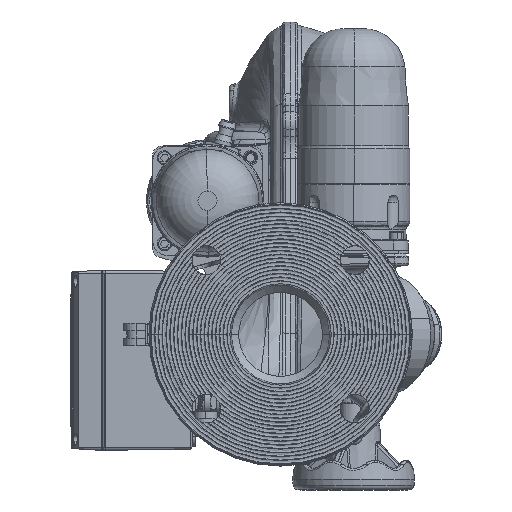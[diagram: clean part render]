
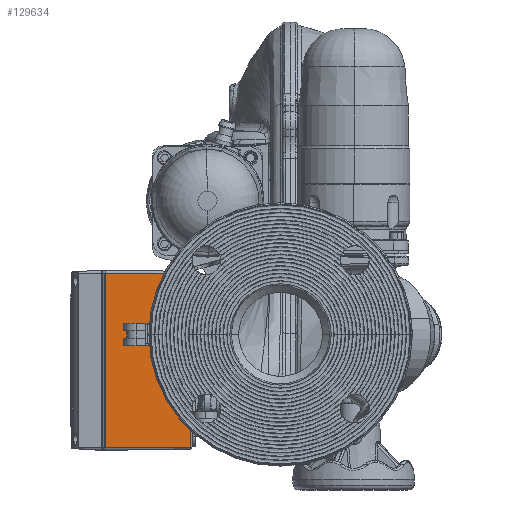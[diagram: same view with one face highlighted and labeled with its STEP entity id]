
A CAD part, front view. The second image highlights one B-rep face of the part: STEP entity #129634.
In plain terms, the highlighted planar face has unit normal (0.014, -1, 0).
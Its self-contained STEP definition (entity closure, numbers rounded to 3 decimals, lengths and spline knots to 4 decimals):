
#7338 = FACE_OUTER_BOUND ( 'NONE', #175853, .T. ) ;
#11361 = AXIS2_PLACEMENT_3D ( 'NONE', #147876, #48940, #62938 ) ;
#11883 = LINE ( 'NONE', #87719, #60179 ) ;
#14255 = EDGE_CURVE ( 'NONE', #159757, #171988, #109664, .T. ) ;
#21362 = CARTESIAN_POINT ( 'NONE',  ( -4.8476, -0.9483, -2.9568 ) ) ;
#27795 = VERTEX_POINT ( 'NONE', #123899 ) ;
#29565 = DIRECTION ( 'NONE',  ( 0., 0., 1. ) ) ;
#30162 = CARTESIAN_POINT ( 'NONE',  ( -2.6018, -0.917, 1.6032 ) ) ;
#39700 = VECTOR ( 'NONE', #162542, 39.3701 ) ;
#44484 = CARTESIAN_POINT ( 'NONE',  ( -4.9186, -0.9493, 1.6032 ) ) ;
#47830 = EDGE_CURVE ( 'NONE', #177715, #27795, #179917, .T. ) ;
#48940 = DIRECTION ( 'NONE',  ( 0.014, -1., 0. ) ) ;
#51559 = LINE ( 'NONE', #44484, #139075 ) ;
#58033 = ORIENTED_EDGE ( 'NONE', *, *, #14255, .T. ) ;
#60179 = VECTOR ( 'NONE', #116411, 39.3701 ) ;
#62938 = DIRECTION ( 'NONE',  ( 1., 0.014, 0. ) ) ;
#63439 = CARTESIAN_POINT ( 'NONE',  ( -4.8476, -0.9483, 1.6032 ) ) ;
#70723 = DIRECTION ( 'NONE',  ( -1., -0.014, 0. ) ) ;
#87719 = CARTESIAN_POINT ( 'NONE',  ( -4.9186, -0.9493, -2.9568 ) ) ;
#103317 = PLANE ( 'NONE',  #11361 ) ;
#104590 = EDGE_CURVE ( 'NONE', #27795, #159757, #51559, .T. ) ;
#109664 = LINE ( 'NONE', #21362, #39700 ) ;
#116411 = DIRECTION ( 'NONE',  ( -1., -0.014, 0. ) ) ;
#123899 = CARTESIAN_POINT ( 'NONE',  ( -2.6018, -0.917, 1.6032 ) ) ;
#129441 = ORIENTED_EDGE ( 'NONE', *, *, #104590, .T. ) ;
#129634 = ADVANCED_FACE ( 'NONE', ( #7338 ), #103317, .T. ) ;
#131792 = VECTOR ( 'NONE', #29565, 39.3701 ) ;
#136446 = CARTESIAN_POINT ( 'NONE',  ( -2.6018, -0.917, -2.9568 ) ) ;
#139075 = VECTOR ( 'NONE', #70723, 39.3701 ) ;
#139532 = ORIENTED_EDGE ( 'NONE', *, *, #47830, .T. ) ;
#147876 = CARTESIAN_POINT ( 'NONE',  ( -4.9186, -0.9493, -2.9568 ) ) ;
#159757 = VERTEX_POINT ( 'NONE', #63439 ) ;
#160796 = ORIENTED_EDGE ( 'NONE', *, *, #172840, .F. ) ;
#162542 = DIRECTION ( 'NONE',  ( 0., 0., -1. ) ) ;
#162689 = CARTESIAN_POINT ( 'NONE',  ( -4.8476, -0.9483, -2.9568 ) ) ;
#171988 = VERTEX_POINT ( 'NONE', #162689 ) ;
#172840 = EDGE_CURVE ( 'NONE', #177715, #171988, #11883, .T. ) ;
#175853 = EDGE_LOOP ( 'NONE', ( #160796, #139532, #129441, #58033 ) ) ;
#177715 = VERTEX_POINT ( 'NONE', #136446 ) ;
#179917 = LINE ( 'NONE', #30162, #131792 ) ;
